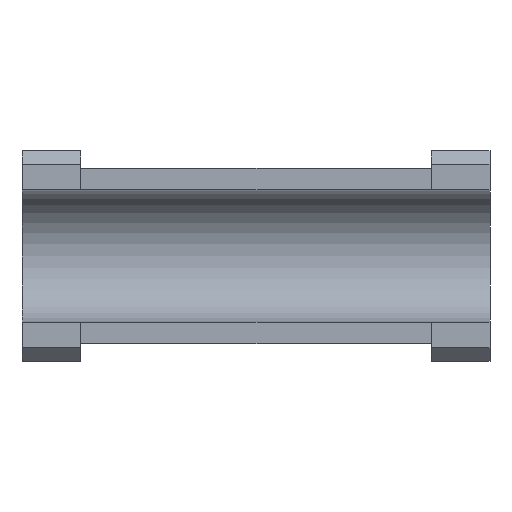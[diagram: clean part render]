
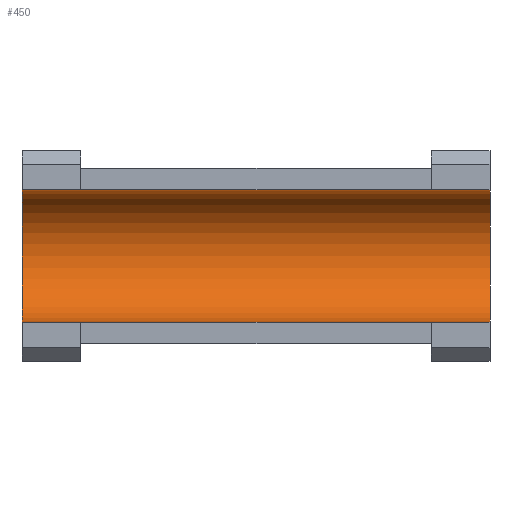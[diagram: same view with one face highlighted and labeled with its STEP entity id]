
A CAD part, front view. The second image highlights one B-rep face of the part: STEP entity #450.
In plain terms, the highlighted cylindrical face has radius 3.4 mm (diameter 6.8 mm), a partial arc.
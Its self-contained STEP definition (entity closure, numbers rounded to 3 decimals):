
#5 = ORIENTED_EDGE ( 'NONE', *, *, #35, .F. ) ;
#35 = EDGE_CURVE ( 'NONE', #742, #213, #734, .T. ) ;
#76 = CYLINDRICAL_SURFACE ( 'NONE', #1011, 3.4 ) ;
#102 = CARTESIAN_POINT ( 'NONE',  ( 24., 8.3, 0. ) ) ;
#119 = DIRECTION ( 'NONE',  ( -1., 0., 0. ) ) ;
#145 = CARTESIAN_POINT ( 'NONE',  ( 0., 8.3, -6.8 ) ) ;
#192 = AXIS2_PLACEMENT_3D ( 'NONE', #368, #844, #1013 ) ;
#213 = VERTEX_POINT ( 'NONE', #145 ) ;
#270 = DIRECTION ( 'NONE',  ( 0., 0., 1. ) ) ;
#284 = ORIENTED_EDGE ( 'NONE', *, *, #588, .T. ) ;
#287 = VECTOR ( 'NONE', #491, 1000. ) ;
#291 = AXIS2_PLACEMENT_3D ( 'NONE', #404, #629, #880 ) ;
#295 = CIRCLE ( 'NONE', #192, 3.4 ) ;
#304 = CARTESIAN_POINT ( 'NONE',  ( 24., 8.3, -6.8 ) ) ;
#321 = VERTEX_POINT ( 'NONE', #102 ) ;
#325 = CIRCLE ( 'NONE', #291, 3.4 ) ;
#357 = EDGE_LOOP ( 'NONE', ( #284, #5, #833, #850 ) ) ;
#368 = CARTESIAN_POINT ( 'NONE',  ( 0., 8.3, -3.4 ) ) ;
#374 = FACE_OUTER_BOUND ( 'NONE', #357, .T. ) ;
#404 = CARTESIAN_POINT ( 'NONE',  ( 24., 8.3, -3.4 ) ) ;
#450 = ADVANCED_FACE ( 'NONE', ( #374 ), #76, .F. ) ;
#487 = VECTOR ( 'NONE', #834, 1000. ) ;
#491 = DIRECTION ( 'NONE',  ( -1., 0., 0. ) ) ;
#588 = EDGE_CURVE ( 'NONE', #935, #213, #295, .T. ) ;
#629 = DIRECTION ( 'NONE',  ( -1., 0., 0. ) ) ;
#734 = LINE ( 'NONE', #894, #287 ) ;
#742 = VERTEX_POINT ( 'NONE', #304 ) ;
#828 = CARTESIAN_POINT ( 'NONE',  ( 24., 8.3, 0. ) ) ;
#833 = ORIENTED_EDGE ( 'NONE', *, *, #937, .F. ) ;
#834 = DIRECTION ( 'NONE',  ( -1., 0., 0. ) ) ;
#844 = DIRECTION ( 'NONE',  ( -1., 0., 0. ) ) ;
#850 = ORIENTED_EDGE ( 'NONE', *, *, #990, .T. ) ;
#880 = DIRECTION ( 'NONE',  ( 0., 0., -1. ) ) ;
#894 = CARTESIAN_POINT ( 'NONE',  ( 24., 8.3, -6.8 ) ) ;
#911 = CARTESIAN_POINT ( 'NONE',  ( 24., 8.3, -3.4 ) ) ;
#935 = VERTEX_POINT ( 'NONE', #952 ) ;
#937 = EDGE_CURVE ( 'NONE', #321, #742, #325, .T. ) ;
#952 = CARTESIAN_POINT ( 'NONE',  ( 0., 8.3, 0. ) ) ;
#990 = EDGE_CURVE ( 'NONE', #321, #935, #997, .T. ) ;
#997 = LINE ( 'NONE', #828, #487 ) ;
#1011 = AXIS2_PLACEMENT_3D ( 'NONE', #911, #119, #270 ) ;
#1013 = DIRECTION ( 'NONE',  ( 0., 0., -1. ) ) ;
